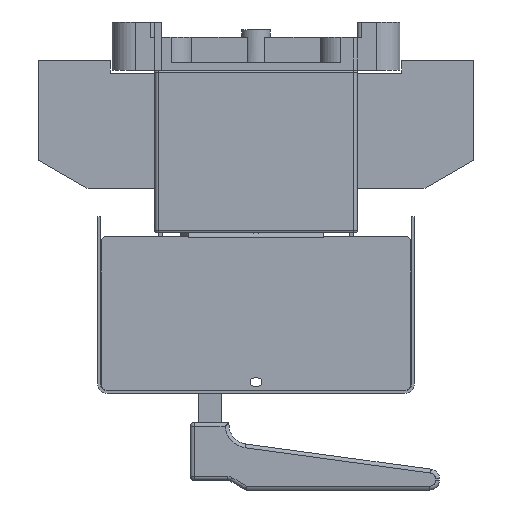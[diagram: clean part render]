
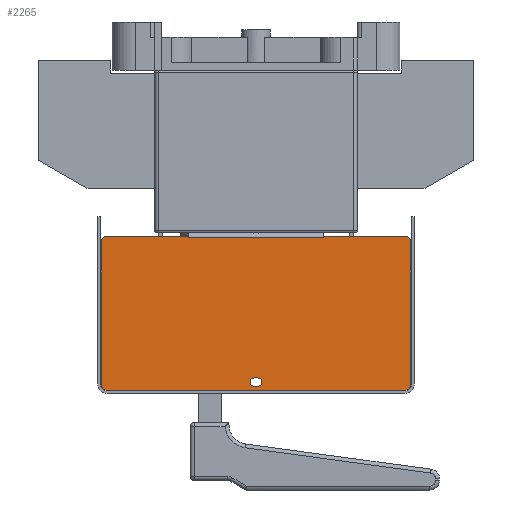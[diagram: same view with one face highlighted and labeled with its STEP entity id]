
A CAD part, left-side view. The second image highlights one B-rep face of the part: STEP entity #2265.
In plain terms, the highlighted planar face has unit normal (-1, 0, 0).
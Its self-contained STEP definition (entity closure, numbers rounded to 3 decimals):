
#2265=ADVANCED_FACE('',(#9252,#9253),#3338,.T.);
#3338=PLANE('',#25387);
#5116=LINE('',#36924,#7777);
#5126=LINE('',#36949,#7787);
#5128=LINE('',#36953,#7789);
#5130=LINE('',#36957,#7791);
#5133=LINE('',#36963,#7794);
#5143=LINE('',#36998,#7804);
#5144=LINE('',#37002,#7805);
#5145=LINE('',#37003,#7806);
#5146=LINE('',#37007,#7807);
#5147=LINE('',#37011,#7808);
#5148=LINE('',#37015,#7809);
#5149=LINE('',#37019,#7810);
#7777=VECTOR('',#29789,1.);
#7787=VECTOR('',#29815,1.);
#7789=VECTOR('',#29819,1.);
#7791=VECTOR('',#29823,1.);
#7794=VECTOR('',#29828,1.);
#7804=VECTOR('',#29856,1.);
#7805=VECTOR('',#29859,1.);
#7806=VECTOR('',#29860,1.);
#7807=VECTOR('',#29863,1.);
#7808=VECTOR('',#29866,1.);
#7809=VECTOR('',#29869,1.);
#7810=VECTOR('',#29872,1.);
#9252=FACE_BOUND('',#10124,.T.);
#9253=FACE_BOUND('',#10125,.T.);
#10124=EDGE_LOOP('',(#14334,#14335,#14336,#14337));
#10125=EDGE_LOOP('',(#14338,#14339,#14340,#14341,#14342,#14343,#14344,#14345,
#14346,#14347,#14348,#14349,#14350,#14351));
#14334=ORIENTED_EDGE('',*,*,#21853,.T.);
#14335=ORIENTED_EDGE('',*,*,#21854,.T.);
#14336=ORIENTED_EDGE('',*,*,#21855,.T.);
#14337=ORIENTED_EDGE('',*,*,#21856,.T.);
#14338=ORIENTED_EDGE('',*,*,#21832,.F.);
#14339=ORIENTED_EDGE('',*,*,#21830,.T.);
#14340=ORIENTED_EDGE('',*,*,#21817,.T.);
#14341=ORIENTED_EDGE('',*,*,#21834,.T.);
#14342=ORIENTED_EDGE('',*,*,#21837,.F.);
#14343=ORIENTED_EDGE('',*,*,#21857,.T.);
#14344=ORIENTED_EDGE('',*,*,#21858,.T.);
#14345=ORIENTED_EDGE('',*,*,#21859,.T.);
#14346=ORIENTED_EDGE('',*,*,#21860,.T.);
#14347=ORIENTED_EDGE('',*,*,#21861,.T.);
#14348=ORIENTED_EDGE('',*,*,#21862,.T.);
#14349=ORIENTED_EDGE('',*,*,#21863,.T.);
#14350=ORIENTED_EDGE('',*,*,#21864,.T.);
#14351=ORIENTED_EDGE('',*,*,#21865,.T.);
#18965=VERTEX_POINT('',#36923);
#18966=VERTEX_POINT('',#36925);
#18971=VERTEX_POINT('',#36946);
#18974=VERTEX_POINT('',#36954);
#18975=VERTEX_POINT('',#36958);
#18977=VERTEX_POINT('',#36964);
#18991=VERTEX_POINT('',#36996);
#18992=VERTEX_POINT('',#36997);
#18993=VERTEX_POINT('',#36999);
#18994=VERTEX_POINT('',#37001);
#18995=VERTEX_POINT('',#37004);
#18996=VERTEX_POINT('',#37006);
#18997=VERTEX_POINT('',#37008);
#18998=VERTEX_POINT('',#37010);
#18999=VERTEX_POINT('',#37012);
#19000=VERTEX_POINT('',#37014);
#19001=VERTEX_POINT('',#37016);
#19002=VERTEX_POINT('',#37018);
#21817=EDGE_CURVE('',#18966,#18965,#5116,.T.);
#21830=EDGE_CURVE('',#18971,#18966,#5126,.T.);
#21832=EDGE_CURVE('',#18971,#18974,#5128,.T.);
#21834=EDGE_CURVE('',#18965,#18975,#5130,.T.);
#21837=EDGE_CURVE('',#18977,#18975,#5133,.T.);
#21853=EDGE_CURVE('',#18991,#18992,#23924,.T.);
#21854=EDGE_CURVE('',#18992,#18993,#5143,.T.);
#21855=EDGE_CURVE('',#18993,#18994,#23925,.T.);
#21856=EDGE_CURVE('',#18994,#18991,#5144,.T.);
#21857=EDGE_CURVE('',#18977,#18995,#5145,.T.);
#21858=EDGE_CURVE('',#18995,#18996,#23926,.T.);
#21859=EDGE_CURVE('',#18996,#18997,#5146,.T.);
#21860=EDGE_CURVE('',#18997,#18998,#23927,.T.);
#21861=EDGE_CURVE('',#18998,#18999,#5147,.T.);
#21862=EDGE_CURVE('',#18999,#19000,#23928,.T.);
#21863=EDGE_CURVE('',#19000,#19001,#5148,.T.);
#21864=EDGE_CURVE('',#19001,#19002,#23929,.T.);
#21865=EDGE_CURVE('',#19002,#18974,#5149,.T.);
#23924=CIRCLE('',#25381,2.1);
#23925=CIRCLE('',#25382,2.1);
#23926=CIRCLE('',#25383,3.);
#23927=CIRCLE('',#25384,3.);
#23928=CIRCLE('',#25385,3.);
#23929=CIRCLE('',#25386,3.);
#25381=AXIS2_PLACEMENT_3D('',#36995,#29854,#29855);
#25382=AXIS2_PLACEMENT_3D('',#37000,#29857,#29858);
#25383=AXIS2_PLACEMENT_3D('',#37005,#29861,#29862);
#25384=AXIS2_PLACEMENT_3D('',#37009,#29864,#29865);
#25385=AXIS2_PLACEMENT_3D('',#37013,#29867,#29868);
#25386=AXIS2_PLACEMENT_3D('',#37017,#29870,#29871);
#25387=AXIS2_PLACEMENT_3D('',#37020,#29873,#29874);
#29789=DIRECTION('',(0.,1.,0.));
#29815=DIRECTION('',(0.,1.,0.));
#29819=DIRECTION('',(0.,0.,1.));
#29823=DIRECTION('',(0.,1.,0.));
#29828=DIRECTION('',(0.,0.,-1.));
#29854=DIRECTION('',(1.,0.,0.));
#29855=DIRECTION('',(0.,1.,0.));
#29856=DIRECTION('',(0.,-1.,0.));
#29857=DIRECTION('',(1.,0.,0.));
#29858=DIRECTION('',(0.,1.,0.));
#29859=DIRECTION('',(0.,1.,0.));
#29860=DIRECTION('',(0.,1.,0.));
#29861=DIRECTION('',(-1.,0.,0.));
#29862=DIRECTION('',(0.,1.,0.));
#29863=DIRECTION('',(0.,0.,-1.));
#29864=DIRECTION('',(-1.,0.,0.));
#29865=DIRECTION('',(0.,1.,0.));
#29866=DIRECTION('',(0.,-1.,0.));
#29867=DIRECTION('',(-1.,0.,0.));
#29868=DIRECTION('',(0.,1.,0.));
#29869=DIRECTION('',(0.,0.,1.));
#29870=DIRECTION('',(-1.,0.,0.));
#29871=DIRECTION('',(0.,1.,0.));
#29872=DIRECTION('',(0.,1.,0.));
#29873=DIRECTION('',(-1.,0.,0.));
#29874=DIRECTION('',(0.,-1.,0.));
#36923=CARTESIAN_POINT('',(-189.3,35.,-86.8));
#36924=CARTESIAN_POINT('',(-189.3,50.5,-86.8));
#36925=CARTESIAN_POINT('',(-189.3,-35.,-86.8));
#36946=CARTESIAN_POINT('',(-189.3,-35.002,-86.8));
#36949=CARTESIAN_POINT('',(-189.3,77.,-86.8));
#36953=CARTESIAN_POINT('',(-189.3,-35.002,-162.8));
#36954=CARTESIAN_POINT('',(-189.3,-35.002,-85.8));
#36957=CARTESIAN_POINT('',(-189.3,77.,-86.8));
#36958=CARTESIAN_POINT('',(-189.3,35.002,-86.8));
#36963=CARTESIAN_POINT('',(-189.3,35.002,-162.8));
#36964=CARTESIAN_POINT('',(-189.3,35.002,-85.8));
#36995=CARTESIAN_POINT('',(-189.3,1.,-161.4));
#36996=CARTESIAN_POINT('',(-189.3,1.,-163.5));
#36997=CARTESIAN_POINT('',(-189.3,1.,-159.3));
#36998=CARTESIAN_POINT('',(-189.3,1.,-159.3));
#36999=CARTESIAN_POINT('',(-189.3,-1.,-159.3));
#37000=CARTESIAN_POINT('',(-189.3,-1.,-161.4));
#37001=CARTESIAN_POINT('',(-189.3,-1.,-163.5));
#37002=CARTESIAN_POINT('',(-189.3,-1.,-163.5));
#37003=CARTESIAN_POINT('',(-189.3,-77.,-85.8));
#37004=CARTESIAN_POINT('',(-189.3,77.,-85.8));
#37005=CARTESIAN_POINT('',(-189.3,77.,-88.8));
#37006=CARTESIAN_POINT('',(-189.3,80.,-88.8));
#37007=CARTESIAN_POINT('',(-189.3,80.,-88.8));
#37008=CARTESIAN_POINT('',(-189.3,80.,-162.8));
#37009=CARTESIAN_POINT('',(-189.3,77.,-162.8));
#37010=CARTESIAN_POINT('',(-189.3,77.,-165.8));
#37011=CARTESIAN_POINT('',(-189.3,77.,-165.8));
#37012=CARTESIAN_POINT('',(-189.3,-77.,-165.8));
#37013=CARTESIAN_POINT('',(-189.3,-77.,-162.8));
#37014=CARTESIAN_POINT('',(-189.3,-80.,-162.8));
#37015=CARTESIAN_POINT('',(-189.3,-80.,-162.8));
#37016=CARTESIAN_POINT('',(-189.3,-80.,-88.8));
#37017=CARTESIAN_POINT('',(-189.3,-77.,-88.8));
#37018=CARTESIAN_POINT('',(-189.3,-77.,-85.8));
#37019=CARTESIAN_POINT('',(-189.3,-77.,-85.8));
#37020=CARTESIAN_POINT('',(-189.3,77.,-162.8));
